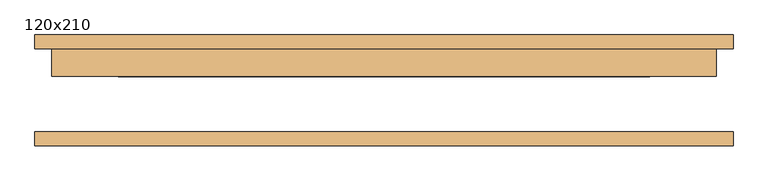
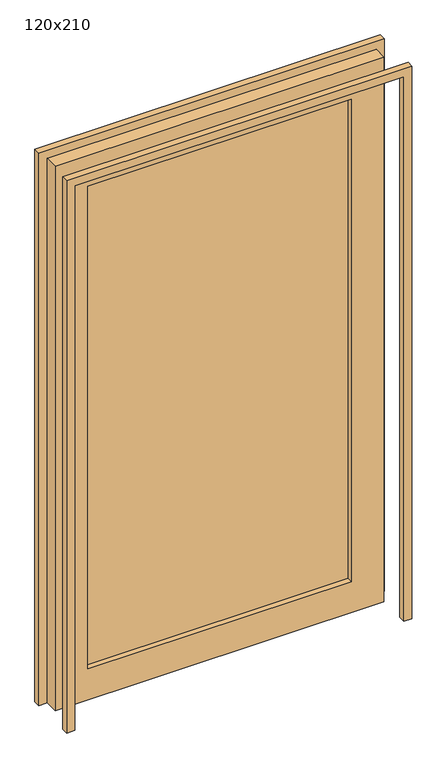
"""IFC4 building model written with IfcOpenShell, lengths in millimetres: door geometry, mydoor : 120x210."""

from ifc_helpers import new_model, si_unit, frame, origin, place, context, project, spatial, polyline, outline, extrude, source, transform, mapped, element, save


def door_120x210_caf2434f(model_context):
    return source(origin(), model_context, "Body", "SweptSolid", [
        extrude(outline(polyline([(480.0, 45.0), (-480.0, 45.0), (-480.0, 55.0), (480.0, 55.0), (480.0, 45.0)])), frame((0.0, 0.0, 120.0), z_axis=(0.0, 0.0, 1.0), x_axis=(1.0, 0.0, 0.0)), (0.0, 0.0, 1.0), 1860.0),
        extrude(outline(polyline([(2130.0, -630.0), (0.0, -630.0), (0.0, -600.0), (2100.0, -600.0), (2100.0, 600.0), (0.0, 600.0), (0.0, 630.0), (2130.0, 630.0), (2130.0, -630.0)])), frame((0.0, 75.0, 0.0), z_axis=(0.0, 1.0, 0.0), x_axis=(0.0, 0.0, 1.0)), (0.0, 0.0, 1.0), 25.0),
        extrude(outline(polyline([(2130.0, 630.0), (2130.0, -630.0), (0.0, -630.0), (0.0, -600.0), (2100.0, -600.0), (2100.0, 600.0), (0.0, 600.0), (0.0, 630.0), (2130.0, 630.0)])), frame((0.0, -100.0, 0.0), z_axis=(0.0, 1.0, 0.0), x_axis=(0.0, 0.0, 1.0)), (0.0, 0.0, 1.0), 25.0),
        extrude(outline(polyline([(2100.0, 600.0), (2100.0, -600.0), (0.0, -600.0), (0.0, 600.0), (2100.0, 600.0)]), holes=[polyline([(120.0, 480.0), (120.0, -480.0), (1980.0, -480.0), (1980.0, 480.0), (120.0, 480.0)])]), frame((0.0, 25.0, 0.0), z_axis=(0.0, 1.0, 0.0), x_axis=(0.0, 0.0, 1.0)), (0.0, 0.0, 1.0), 50.0),
    ])


if __name__ == "__main__":
    model = new_model("IFC4")
    model_context = context("Model", 3, world=origin())
    ifc_project = project(units=[si_unit("LENGTHUNIT", "METRE", prefix="MILLI")], contexts=[model_context])
    site = spatial("IfcSite", under=ifc_project)
    building = spatial("IfcBuilding", under=site)
    placement = place(None, origin())
    door_120x210_shape = door_120x210_caf2434f(model_context)
    element("IfcDoor", 1, ObjectType="mydoor : 120x210", at=placement, inside=building, context=model_context, shape_type="MappedRepresentation", body=[
        mapped(door_120x210_shape, transform((0.0, 0.0, 0.0), x_axis=(1.0, 0.0, 0.0), y_axis=(0.0, 1.0, 0.0), z_axis=(0.0, 0.0, 1.0))),
    ])
    save(model, "model.ifc")
